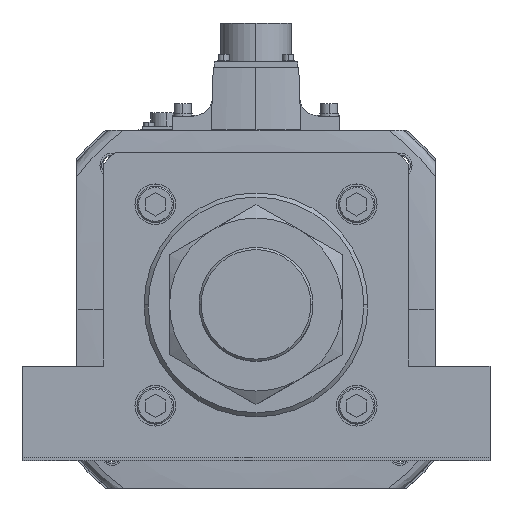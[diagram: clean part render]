
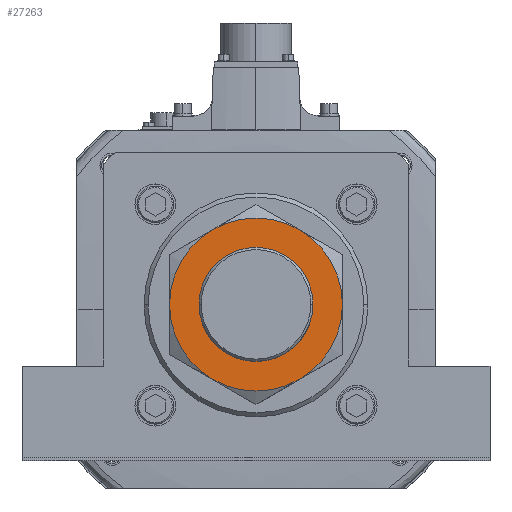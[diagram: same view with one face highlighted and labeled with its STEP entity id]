
A CAD part, top view. The second image highlights one B-rep face of the part: STEP entity #27263.
In plain terms, the highlighted planar face has unit normal (0, 0, 1).
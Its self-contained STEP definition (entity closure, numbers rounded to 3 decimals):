
#2941 = ORIENTED_EDGE ( 'NONE', *, *, #34292, .F. ) ;
#4685 = CARTESIAN_POINT ( 'NONE',  ( 42.5, 0., 34. ) ) ;
#5866 = ORIENTED_EDGE ( 'NONE', *, *, #54515, .F. ) ;
#6241 = DIRECTION ( 'NONE',  ( 1., 0., 0. ) ) ;
#6913 = ORIENTED_EDGE ( 'NONE', *, *, #12179, .F. ) ;
#7306 = CARTESIAN_POINT ( 'NONE',  ( 0., 0., 34. ) ) ;
#8436 = VERTEX_POINT ( 'NONE', #18004 ) ;
#8891 = AXIS2_PLACEMENT_3D ( 'NONE', #26671, #17102, #48534 ) ;
#9202 = DIRECTION ( 'NONE',  ( 0., 0., -1. ) ) ;
#9399 = AXIS2_PLACEMENT_3D ( 'NONE', #7306, #38387, #20710 ) ;
#11727 = VERTEX_POINT ( 'NONE', #49991 ) ;
#11915 = AXIS2_PLACEMENT_3D ( 'NONE', #56779, #9202, #17471 ) ;
#12179 = EDGE_CURVE ( 'NONE', #53867, #55555, #42254, .T. ) ;
#12450 = DIRECTION ( 'NONE',  ( -1., 0., 0. ) ) ;
#13581 = CIRCLE ( 'NONE', #26231, 42.5 ) ;
#15537 = ORIENTED_EDGE ( 'NONE', *, *, #37387, .F. ) ;
#17102 = DIRECTION ( 'NONE',  ( 0., 0., 1. ) ) ;
#17399 = ORIENTED_EDGE ( 'NONE', *, *, #56952, .F. ) ;
#17471 = DIRECTION ( 'NONE',  ( 1., 0., 0. ) ) ;
#18004 = CARTESIAN_POINT ( 'NONE',  ( 21.25, 36.806, 34. ) ) ;
#19108 = FACE_OUTER_BOUND ( 'NONE', #28257, .T. ) ;
#20029 = CIRCLE ( 'NONE', #11915, 42.5 ) ;
#20710 = DIRECTION ( 'NONE',  ( 1., 0., 0. ) ) ;
#21025 = EDGE_CURVE ( 'NONE', #41855, #11727, #33150, .T. ) ;
#21863 = FACE_BOUND ( 'NONE', #43023, .T. ) ;
#23521 = AXIS2_PLACEMENT_3D ( 'NONE', #52044, #42656, #47459 ) ;
#24077 = DIRECTION ( 'NONE',  ( 1., 0., 0. ) ) ;
#25132 = VERTEX_POINT ( 'NONE', #54489 ) ;
#26231 = AXIS2_PLACEMENT_3D ( 'NONE', #56553, #42776, #12450 ) ;
#26671 = CARTESIAN_POINT ( 'NONE',  ( 0., 0., 34. ) ) ;
#27263 = ADVANCED_FACE ( 'NONE', ( #19108, #21863 ), #54941, .T. ) ;
#27803 = CIRCLE ( 'NONE', #48132, 28. ) ;
#28257 = EDGE_LOOP ( 'NONE', ( #17399, #2941, #29332, #44544, #5866, #6913 ) ) ;
#28526 = CIRCLE ( 'NONE', #23521, 42.5 ) ;
#28866 = DIRECTION ( 'NONE',  ( 0., 0., 1. ) ) ;
#29332 = ORIENTED_EDGE ( 'NONE', *, *, #48490, .F. ) ;
#29556 = DIRECTION ( 'NONE',  ( 0., 0., -1. ) ) ;
#30976 = CARTESIAN_POINT ( 'NONE',  ( -42.5, 0., 34. ) ) ;
#31106 = EDGE_CURVE ( 'NONE', #38690, #25132, #13581, .T. ) ;
#31893 = VERTEX_POINT ( 'NONE', #4685 ) ;
#32804 = ORIENTED_EDGE ( 'NONE', *, *, #21025, .F. ) ;
#33150 = CIRCLE ( 'NONE', #8891, 28. ) ;
#33981 = DIRECTION ( 'NONE',  ( 1., 0., 0. ) ) ;
#34038 = AXIS2_PLACEMENT_3D ( 'NONE', #54385, #45210, #6241 ) ;
#34292 = EDGE_CURVE ( 'NONE', #8436, #31893, #49709, .T. ) ;
#37387 = EDGE_CURVE ( 'NONE', #11727, #41855, #27803, .T. ) ;
#37906 = DIRECTION ( 'NONE',  ( 1., 0., 0. ) ) ;
#38387 = DIRECTION ( 'NONE',  ( 0., 0., -1. ) ) ;
#38690 = VERTEX_POINT ( 'NONE', #30976 ) ;
#39728 = CARTESIAN_POINT ( 'NONE',  ( 28., 0., 34. ) ) ;
#41855 = VERTEX_POINT ( 'NONE', #39728 ) ;
#42254 = CIRCLE ( 'NONE', #9399, 42.5 ) ;
#42456 = CIRCLE ( 'NONE', #47750, 42.5 ) ;
#42656 = DIRECTION ( 'NONE',  ( 0., 0., -1. ) ) ;
#42776 = DIRECTION ( 'NONE',  ( 0., 0., -1. ) ) ;
#43023 = EDGE_LOOP ( 'NONE', ( #15537, #32804 ) ) ;
#43990 = CARTESIAN_POINT ( 'NONE',  ( -21.25, -36.806, 34. ) ) ;
#44544 = ORIENTED_EDGE ( 'NONE', *, *, #31106, .F. ) ;
#45210 = DIRECTION ( 'NONE',  ( 0., 0., -1. ) ) ;
#46644 = AXIS2_PLACEMENT_3D ( 'NONE', #55128, #28866, #24077 ) ;
#47459 = DIRECTION ( 'NONE',  ( 1., 0., 0. ) ) ;
#47750 = AXIS2_PLACEMENT_3D ( 'NONE', #55811, #29556, #33981 ) ;
#48132 = AXIS2_PLACEMENT_3D ( 'NONE', #50359, #54774, #37906 ) ;
#48490 = EDGE_CURVE ( 'NONE', #25132, #8436, #28526, .T. ) ;
#48534 = DIRECTION ( 'NONE',  ( 1., 0., 0. ) ) ;
#49709 = CIRCLE ( 'NONE', #34038, 42.5 ) ;
#49991 = CARTESIAN_POINT ( 'NONE',  ( -28., 0., 34. ) ) ;
#50323 = CARTESIAN_POINT ( 'NONE',  ( 21.25, -36.806, 34. ) ) ;
#50359 = CARTESIAN_POINT ( 'NONE',  ( 0., 0., 34. ) ) ;
#52044 = CARTESIAN_POINT ( 'NONE',  ( 0., 0., 34. ) ) ;
#53867 = VERTEX_POINT ( 'NONE', #50323 ) ;
#54385 = CARTESIAN_POINT ( 'NONE',  ( 0., 0., 34. ) ) ;
#54489 = CARTESIAN_POINT ( 'NONE',  ( -21.25, 36.806, 34. ) ) ;
#54515 = EDGE_CURVE ( 'NONE', #55555, #38690, #20029, .T. ) ;
#54774 = DIRECTION ( 'NONE',  ( 0., 0., 1. ) ) ;
#54941 = PLANE ( 'NONE',  #46644 ) ;
#55128 = CARTESIAN_POINT ( 'NONE',  ( 0., 0., 34. ) ) ;
#55555 = VERTEX_POINT ( 'NONE', #43990 ) ;
#55811 = CARTESIAN_POINT ( 'NONE',  ( 0., 0., 34. ) ) ;
#56553 = CARTESIAN_POINT ( 'NONE',  ( 0., 0., 34. ) ) ;
#56779 = CARTESIAN_POINT ( 'NONE',  ( 0., 0., 34. ) ) ;
#56952 = EDGE_CURVE ( 'NONE', #31893, #53867, #42456, .T. ) ;
